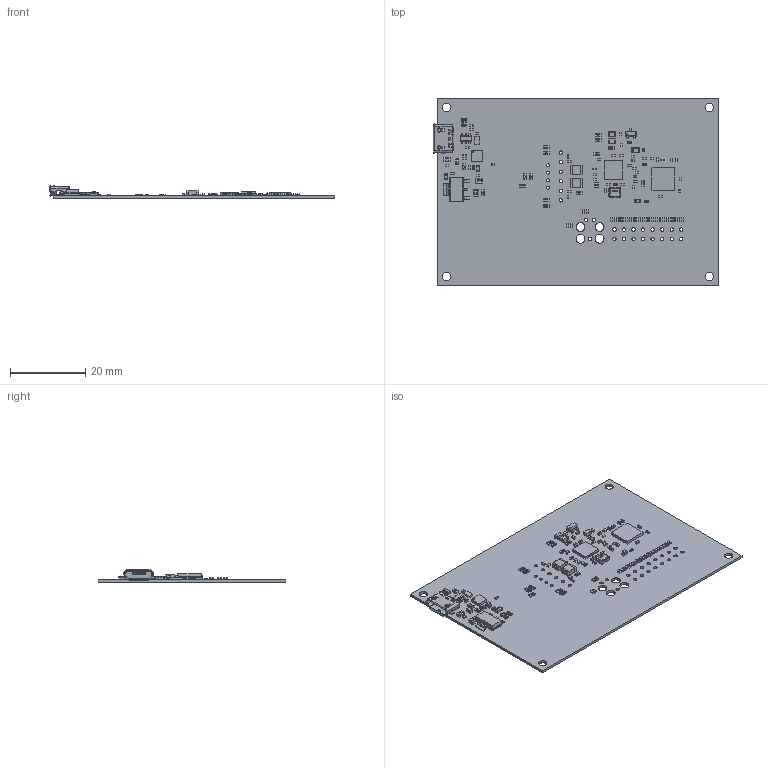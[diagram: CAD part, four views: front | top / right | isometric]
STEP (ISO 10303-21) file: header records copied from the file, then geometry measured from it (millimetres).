
FILE_DESCRIPTION(('Open CASCADE Model'),'2;1');
FILE_NAME('Open CASCADE Shape Model','2018-10-04T14:53:26',('Author'),( 'Open CASCADE'),'Open CASCADE STEP processor 6.8','Open CASCADE 6.8' ,'Unknown');
FILE_SCHEMA(('AUTOMOTIVE_DESIGN { 1 0 10303 214 1 1 1 1 }'));
Length unit declared in the file: millimetre
Products named in the file (141): PCB; Board; U5; SOT-223-4; User_Library-SOT-223-4_SOT-223_Body; User_Library-SOT-223-4_SOT-223_Foot_1; User_Library-SOT-223-4_SOT-223_Foot_2; R31; User_Library-Chip_Resistor2; R30; LED2; User_Library-led0603_GRE; C63; User_Library-0805_SMD_Capacitor; C62; User_Library-0603_SMD_Capacitor(1); C61; C60; U4; User_Library-SOT457; User_Library-SOT457_body; User_Library-SOT457_pin; R29; LED1; L7; 807668832; Extruded; L6; User_Library-Chip_Inductor_(2); C59; cap_0402; C58; C57; C56; C55; C54; R28; R27; C53; C52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
Assembly tree (241 placements, depth 4):
  PCB
    Board
    U5
      SOT-223-4
        User_Library-SOT-223-4_SOT-223_Body
        User_Library-SOT-223-4_SOT-223_Foot_1  x3
        User_Library-SOT-223-4_SOT-223_Foot_2
    R31
      User_Library-Chip_Resistor2
    R30
      User_Library-Chip_Resistor2
    LED2
      User_Library-led0603_GRE
    C63
      User_Library-0805_SMD_Capacitor
    C62
      User_Library-0603_SMD_Capacitor(1)
    C61
      User_Library-0805_SMD_Capacitor
    C60
      User_Library-0805_SMD_Capacitor
    U4
      User_Library-SOT457
        User_Library-SOT457_body
        User_Library-SOT457_pin  x6
    R29
      User_Library-Chip_Resistor2
    LED1
      User_Library-led0603_GRE
    L7
      807668832
        Extruded
    L6
      User_Library-Chip_Inductor_(2)
    C59
      cap_0402
    C58
      cap_0402
    C57
      cap_0402
    C56
      cap_0402
    C55
      cap_0402
    C54
      cap_0402
    R28
      User_Library-Chip_Resistor2
    R27
      User_Library-Chip_Resistor2
    C53
      cap_0402
    C52
      cap_0402
    C31
      cap_0402
    C33
      cap_0402
    C48
      cap_0402
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Bounding box: 76.04 x 50 x 3.39 mm (x, y, z)
Volume: 2701 mm3; surface area: 8698 mm2
Topology: 173 solids, 173 shells, 6581 faces, 15554 edges, 8756 vertices
Faces by surface type: plane 2747, cylinder 2254, sphere 806, bspline 768, torus 4, cone 2
Full cylindrical faces by diameter (mm): 0.8 x4, 0.889 x3, 0.9 x22, 2.2 x4, 2.362 x4
Entity records: 66924 total; most frequent: CARTESIAN_POINT 18306, ORIENTED_EDGE 8348, DIRECTION 8077, EDGE_CURVE 4174, LINE 3171, VECTOR 3171, VERTEX_POINT 2644, AXIS2_PLACEMENT_3D 2453
